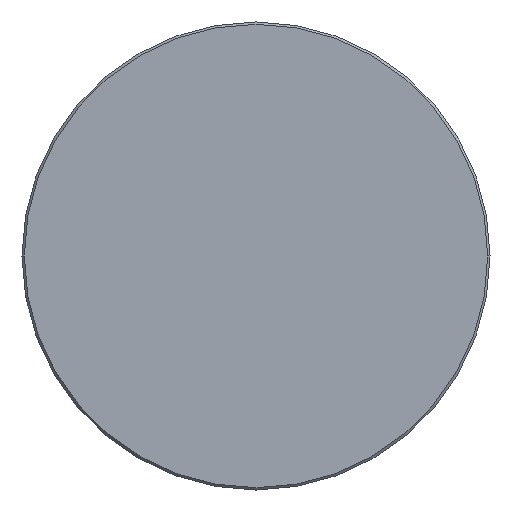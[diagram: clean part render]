
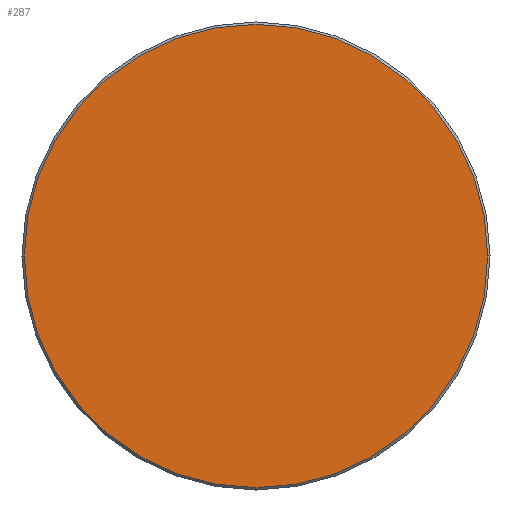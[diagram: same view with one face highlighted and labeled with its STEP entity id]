
A CAD part, left-side view. The second image highlights one B-rep face of the part: STEP entity #287.
In plain terms, the highlighted planar face has unit normal (-1, 0, 0).
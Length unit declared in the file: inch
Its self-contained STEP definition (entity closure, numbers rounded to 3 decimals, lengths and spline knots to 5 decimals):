
#25 = DIRECTION ( 'NONE',  ( -1., 0., 0. ) ) ;
#28 = CARTESIAN_POINT ( 'NONE',  ( 0., 0., 0. ) ) ;
#43 = DIRECTION ( 'NONE',  ( 0., -1., 0. ) ) ;
#54 = VERTEX_POINT ( 'NONE', #213 ) ;
#60 = PLANE ( 'NONE',  #220 ) ;
#84 = ORIENTED_EDGE ( 'NONE', *, *, #339, .T. ) ;
#120 = EDGE_LOOP ( 'NONE', ( #150, #84 ) ) ;
#143 = CIRCLE ( 'NONE', #243, 0.40225 ) ;
#145 = CARTESIAN_POINT ( 'NONE',  ( 0., 0.40225, 0. ) ) ;
#150 = ORIENTED_EDGE ( 'NONE', *, *, #275, .T. ) ;
#163 = FACE_OUTER_BOUND ( 'NONE', #120, .T. ) ;
#175 = DIRECTION ( 'NONE',  ( -1., 0., 0. ) ) ;
#190 = DIRECTION ( 'NONE',  ( 0., -1., 0. ) ) ;
#213 = CARTESIAN_POINT ( 'NONE',  ( 0., -0.40225, 0. ) ) ;
#220 = AXIS2_PLACEMENT_3D ( 'NONE', #250, #25, #282 ) ;
#223 = DIRECTION ( 'NONE',  ( -1., 0., 0. ) ) ;
#243 = AXIS2_PLACEMENT_3D ( 'NONE', #28, #223, #190 ) ;
#250 = CARTESIAN_POINT ( 'NONE',  ( 0., 0., 0. ) ) ;
#259 = CARTESIAN_POINT ( 'NONE',  ( 0., 0., 0. ) ) ;
#275 = EDGE_CURVE ( 'NONE', #357, #54, #143, .T. ) ;
#282 = DIRECTION ( 'NONE',  ( 0., -1., 0. ) ) ;
#287 = ADVANCED_FACE ( 'NONE', ( #163 ), #60, .T. ) ;
#327 = AXIS2_PLACEMENT_3D ( 'NONE', #259, #175, #43 ) ;
#339 = EDGE_CURVE ( 'NONE', #54, #357, #365, .T. ) ;
#357 = VERTEX_POINT ( 'NONE', #145 ) ;
#365 = CIRCLE ( 'NONE', #327, 0.40225 ) ;
